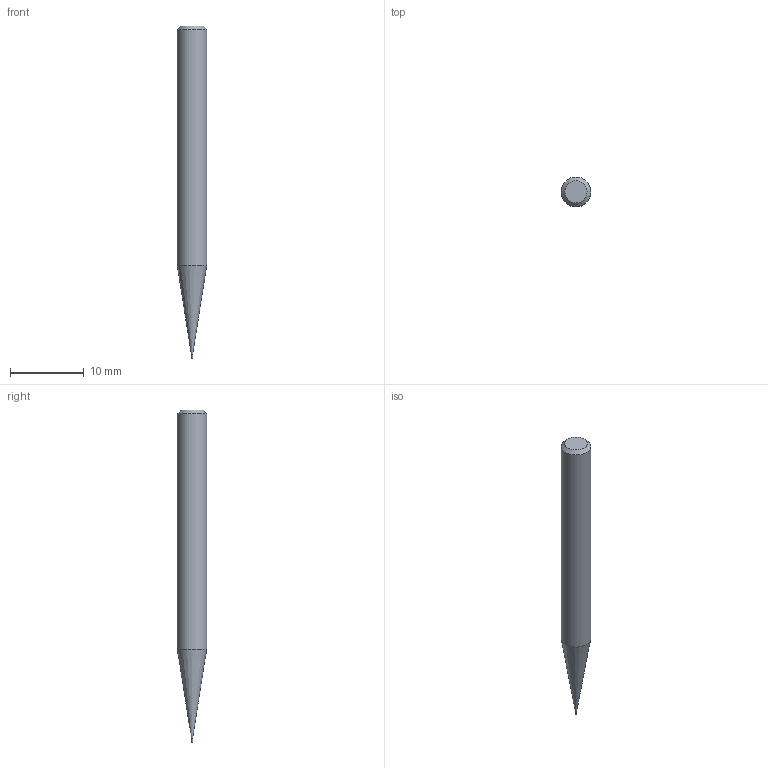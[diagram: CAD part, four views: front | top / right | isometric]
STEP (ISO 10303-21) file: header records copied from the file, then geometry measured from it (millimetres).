
FILE_DESCRIPTION((''),'2;1');
FILE_NAME('C:\Users\nsx150\Desktop\RSE230_20210427\01-00644-00150 RSE230 D0_15X0_45.step','2021-05-07T14:52:17',(''),(''),'STEP Write','Mastercam 2021 ... CNC Software, Inc.','');
FILE_SCHEMA(('AUTOMOTIVE_DESIGN'));
Length unit declared in the file: millimetre
Products named in the file (1): None
Bounding box: 4 x 4 x 45 mm (x, y, z)
Volume: 458.6 mm3; surface area: 496.1 mm2
Topology: 2 solids, 2 shells, 8 faces, 10 edges, 6 vertices
Faces by surface type: plane 4, cylinder 2, cone 2
Full cylindrical faces by diameter (mm): 0.15 x1, 4 x1
Entity records: 190 total; most frequent: DIRECTION 32, CARTESIAN_POINT 22, AXIS2_PLACEMENT_3D 16, ORIENTED_EDGE 12, EDGE_LOOP 12, STYLED_ITEM 11, ADVANCED_FACE 8, VERTEX_POINT 6
